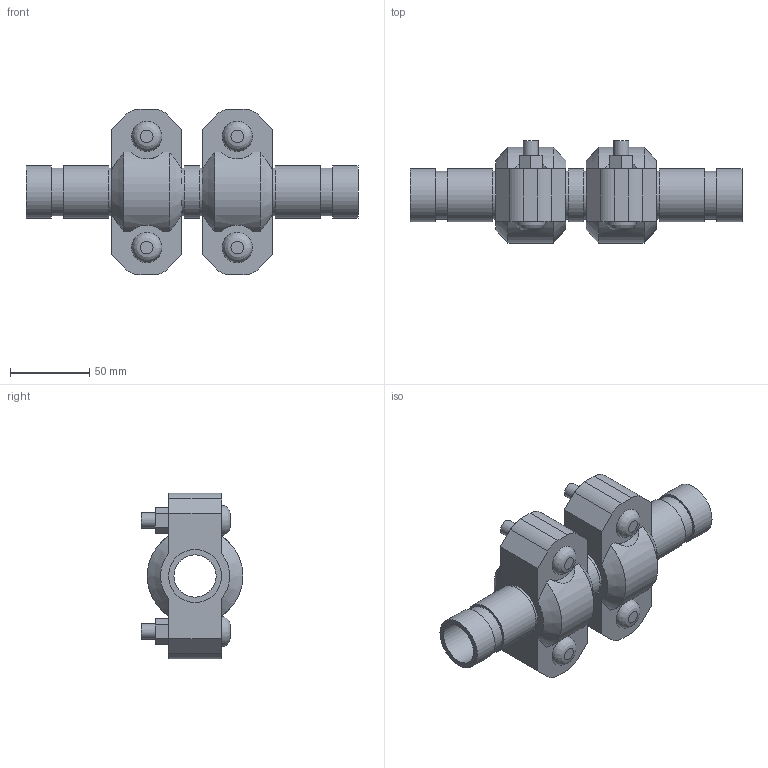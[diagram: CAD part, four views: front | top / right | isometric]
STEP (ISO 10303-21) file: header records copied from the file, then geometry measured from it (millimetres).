
FILE_DESCRIPTION(/* description */ ('VIC EXPANSION JOINT 2 COUPLINGS COMPRESSED STYLE 155 (OGS)','CAx-IF Rec.Pracs.---Representation and Presentation of Product Manufacturing Information (PMI)---4.0---2014-10-13'),/* implementation_level */ '2;1');
FILE_NAME(/* name */ 'C:\Users\kkamble\AppData\Roaming\Autodesk\ApplicationPlugins\Victaulic.Temp\A11\Victaulic_IPS_Expansion Joint_Compressed_2 Couplings_Style 155 (OGS)_1 (25).stp',/* time_stamp */ '2021-06-27T00:22:59+02:00',/* author */ ('kkamble'),/* organization */ ('Victaulic'),/* preprocessor_version */ 'ST-DEVELOPER v17.2',/* originating_system */ 'Autodesk Inventor 2019',/* authorisation */ '');
FILE_SCHEMA (('AP242_MANAGED_MODEL_BASED_3D_ENGINEERING_MIM_LF { 1 0 10303 442 1 1 4 }'));
Length unit declared in the file: inch
Products named in the file (4): 155-01.0; Nipple-01.0; Nipple-01.0_1; 077-01.0
Assembly tree (5 placements, depth 2):
  155-01.0
    Nipple-01.0  x2
    Nipple-01.0_1
    077-01.0  x2
Bounding box: 209.55 x 64.33 x 104.65 mm (x, y, z)
Volume: 349661.5 mm3; surface area: 100105.2 mm2
Topology: 5 solids, 9 shells, 150 faces, 368 edges, 260 vertices
Faces by surface type: plane 86, cylinder 52, cone 8, bspline 4
Full cylindrical faces by diameter (mm): 9.525 x8, 11.43 x4, 26.645 x3, 30.226 x6, 33.401 x11
Entity records: 2843 total; most frequent: CARTESIAN_POINT 551, DIRECTION 455, ORIENTED_EDGE 398, EDGE_CURVE 199, AXIS2_PLACEMENT_3D 180, VERTEX_POINT 142, EDGE_LOOP 105, LINE 95
